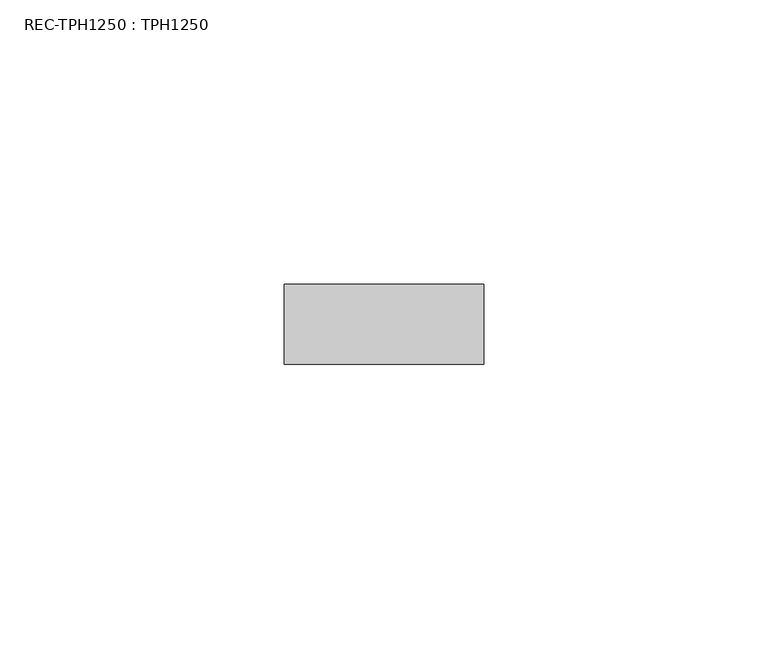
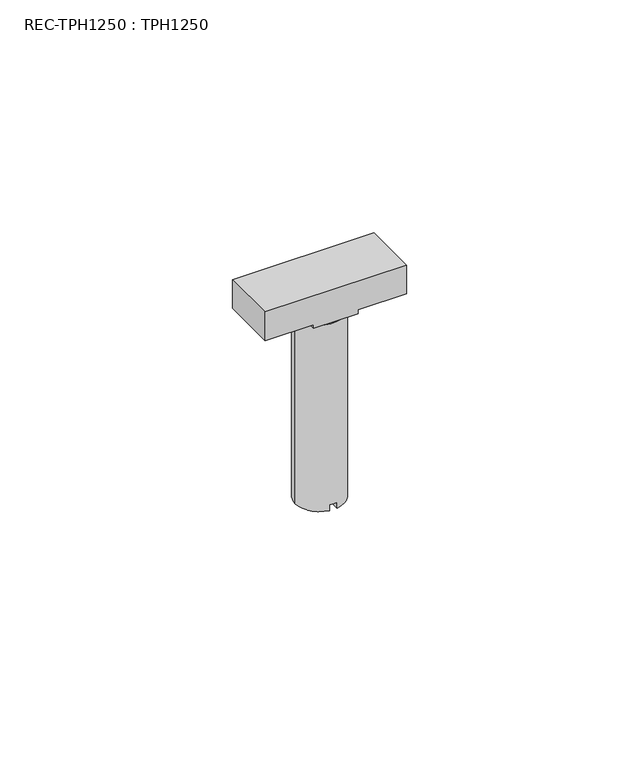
"""IFC4 building model written with IfcOpenShell, lengths in millimetres: fastener geometry, REC-TPH1250 : TPH1250."""

from ifc_helpers import new_model, si_unit, frame, origin, place, context, project, spatial, polyline, circle_curve, outline, extrude, source, transform, mapped, element, save
from ifc_brep_helpers import plane_surface, cylinder_surface, advanced_brep


def rec_tph1250_tph1250_56b32e52(model_context):
    return source(origin(), model_context, "Body", "SolidModel", [
        extrude(outline(polyline([(49.9947035, -5.5124234), (49.9947035, 5.5124234), (50.9947035, 5.5124234), (50.9947035, 17.5), (58.4947035, 17.5), (58.4947035, -17.5), (50.9947035, -17.5), (50.9947035, -5.5124234), (49.9947035, -5.5124234)])), frame((0.0, -7.0, 0.0), z_axis=(0.0, 1.0, 0.0), x_axis=(0.0, 0.0, 1.0)), (0.0, 0.0, 1.0), 14.0),
        extrude(outline(polyline([(2.7960746, -2.8609843), (-0.0323526, -4.0325572), (-2.8607797, -2.8609843), (-4.0323526, -0.0325572), (-2.8607797, 2.79587), (-0.0323526, 3.9674428), (2.7960746, 2.79587), (3.9676474, -0.0325572), (2.7960746, -2.8609843)])), frame((0.0, 0.0, 48.9420113), z_axis=(0.0, 0.0, 1.0), x_axis=(1.0, 0.0, 0.0)), (0.0, 0.0, 1.0), 1.0526922),
        advanced_brep(
        [(-0.8991087, -5.9322511, 0.0), (-5.9999579, 0.0224723, 0.0), (-0.8991087, 5.9322511, 0.0), (5.9999579, -0.0224723, 0.0), (0.8991087, -5.9322511, 0.0), (0.8991087, 5.9322511, 0.0), (5.9999579, -0.0224723, 48.9420113), (-5.9999579, 0.0224723, 48.9420113), (-0.8991087, -5.9322511, 1.4985266), (0.8991087, -5.9322511, 1.4985266), (0.8991087, 5.9322511, 1.4985266), (-0.8991087, 5.9322511, 1.4985266)],
        [
            (0, 1, circle_curve(frame((0.0, 0.0, 0.0), z_axis=(0.0, 0.0, -1.0), x_axis=(-0.9999929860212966, 0.003745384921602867, 0.0)), 6.0)),
            (1, 2, circle_curve(frame((0.0, 0.0, 0.0), z_axis=(0.0, 0.0, -1.0), x_axis=(-0.9999929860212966, 0.003745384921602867, 0.0)), 6.0)),
            (2, 0),
            (3, 4, circle_curve(frame((0.0, 0.0, 0.0), z_axis=(0.0, 0.0, -1.0), x_axis=(-0.9999929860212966, 0.003745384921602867, 0.0)), 6.0)),
            (4, 5),
            (5, 3, circle_curve(frame((0.0, 0.0, 0.0), z_axis=(0.0, 0.0, -1.0), x_axis=(-0.9999929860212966, 0.003745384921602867, 0.0)), 6.0)),
            (6, 7, circle_curve(frame((0.0, 0.0, 48.9420113), z_axis=(0.0, 0.0, 1.0), x_axis=(-0.9999929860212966, 0.003745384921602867, 0.0)), 6.0)),
            (7, 6, circle_curve(frame((0.0, 0.0, 48.9420113), z_axis=(0.0, 0.0, 1.0), x_axis=(-0.9999929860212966, 0.003745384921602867, 0.0)), 6.0)),
            (7, 1),
            (0, 8),
            (8, 9, circle_curve(frame((0.0, 0.0, 1.4985266), z_axis=(0.0, 0.0, 1.0), x_axis=(-0.9999929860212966, 0.003745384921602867, 0.0)), 6.0)),
            (9, 4),
            (3, 6),
            (5, 10),
            (10, 11, circle_curve(frame((0.0, 0.0, 1.4985266), z_axis=(0.0, 0.0, 1.0), x_axis=(-0.9999929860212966, 0.003745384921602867, 0.0)), 6.0)),
            (11, 2),
            (11, 8),
            (10, 9),
        ],
        [
            plane_surface(frame((-5.9999579, 0.0224723, 0.0), z_axis=(0.0, 0.0, -1.0), x_axis=(0.003745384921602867, 0.9999929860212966, 0.0))),
            plane_surface(frame((-5.9999579, 0.0224723, 48.9420113), z_axis=(0.0, 0.0, 1.0), x_axis=(-0.003745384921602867, -0.9999929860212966, 0.0))),
            cylinder_surface(frame((0.0, 0.0, 48.9420113), z_axis=(0.0, 0.0, -1.0), x_axis=(-0.9999929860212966, 0.003745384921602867, 0.0)), 6.0),
            plane_surface(frame((-0.8991087, 7.0, -0.0052965), z_axis=(1.0, 0.0, 0.0), x_axis=(0.0, -1.0, 0.0))),
            plane_surface(frame((-0.8991087, 7.0, 1.4985266), z_axis=(0.0, 0.0, -1.0), x_axis=(0.0, -1.0, 0.0))),
            plane_surface(frame((0.8991087, 7.0, 1.4985266), z_axis=(-1.0, 0.0, 0.0), x_axis=(0.0, -1.0, 0.0))),
        ],
        [
            (0, [[1, 2, 3]]),
            (0, [[4, 5, 6]]),
            (1, [[7, 8]]),
            (2, [[-8, 9, -1, 10, 11, 12, -4, 13]]),
            (2, [[-7, -13, -6, 14, 15, 16, -2, -9]]),
            (3, [[17, -10, -3, -16]]),
            (4, [[-17, -15, 18, -11]]),
            (5, [[-18, -14, -5, -12]]),
        ],
    ),
    ])


if __name__ == "__main__":
    model = new_model("IFC4")
    model_context = context("Model", 3, world=origin())
    ifc_project = project(units=[si_unit("LENGTHUNIT", "METRE", prefix="MILLI")], contexts=[model_context])
    site = spatial("IfcSite", under=ifc_project)
    building = spatial("IfcBuilding", under=site)
    placement = place(None, origin())
    rec_tph1250_tph1250_shape = rec_tph1250_tph1250_56b32e52(model_context)
    element("IfcFastener", 1, ObjectType="REC-TPH1250 : TPH1250", at=placement, inside=building, context=model_context, shape_type="MappedRepresentation", body=[
        mapped(rec_tph1250_tph1250_shape, transform((0.0, 0.0, 0.0), x_axis=(1.0, 0.0, 0.0), y_axis=(0.0, 1.0, 0.0), z_axis=(0.0, 0.0, 1.0))),
    ])
    save(model, "model.ifc")
